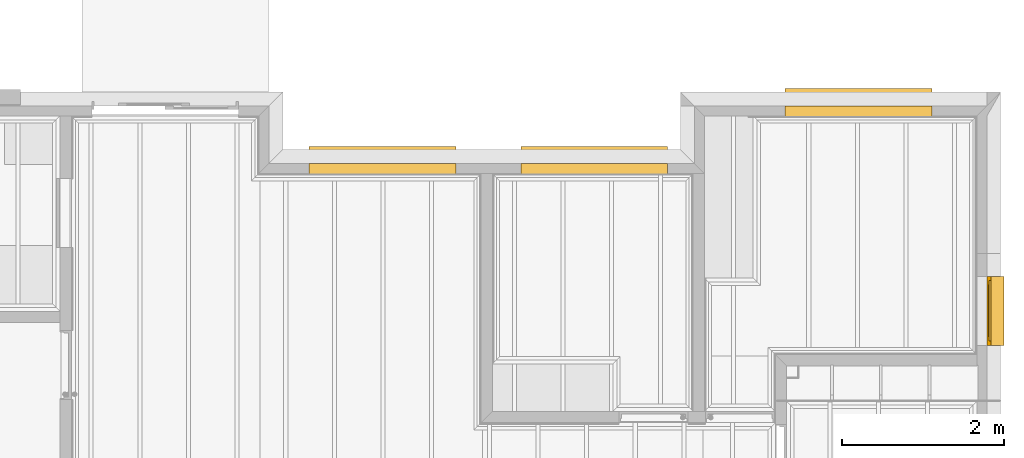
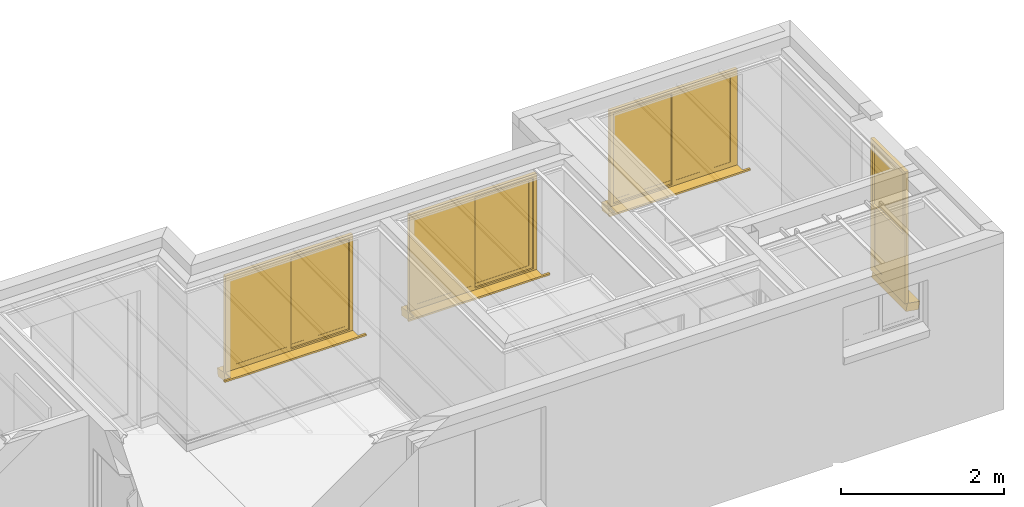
# One storey, part 9 of 15: 4 windows.
"""IFC2X3 building model written with IfcOpenShell, lengths in millimetres."""

from ifc_helpers import new_model, entity, si_unit, converted_unit, money_unit, direction, frame, origin_with_axes, place, context, subcontext, project, spatial, faceted_brep, source, transform, mapped, material, material_list, type_object, element, save


model = new_model("IFC2X3")

# Units and contexts
model_context = context("Model", 3, precision=1e-05, world=origin_with_axes(), true_north=direction((0.0, 1.0)))
body_context = subcontext(model_context, "Body", "Model", "MODEL_VIEW")
ifc_project = project(units=[si_unit("LENGTHUNIT", "METRE", prefix="MILLI"), si_unit("AREAUNIT", "SQUARE_METRE"), si_unit("VOLUMEUNIT", "CUBIC_METRE"), converted_unit("PLANEANGLEUNIT", "DEGREE", entity("IfcPlaneAngleMeasure", 0.0174532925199), si_unit("PLANEANGLEUNIT", "RADIAN"), dimensions=[0, 0, 0, 0, 0, 0, 0]), si_unit("SOLIDANGLEUNIT", "STERADIAN"), money_unit("AUD"), si_unit("TIMEUNIT", "SECOND"), si_unit("MASSUNIT", "GRAM"), si_unit("THERMODYNAMICTEMPERATUREUNIT", "DEGREE_CELSIUS"), si_unit("LUMINOUSINTENSITYUNIT", "LUMEN")], contexts=[model_context])

# Site, building, storey
site_placement = place(None, origin_with_axes())
site = spatial("IfcSite", under=ifc_project, at=site_placement, Name="Lot 1. East Hills", CompositionType="ELEMENT")
building_placement = place(site_placement, origin_with_axes())
building = spatial("IfcBuilding", under=site, at=building_placement, Name="Proposed Units 7 & 8", CompositionType="ELEMENT")
storey_placement = place(building_placement, frame((0.0, 0.0, 3202.0), z_axis=(0.0, 0.0, 1.0), x_axis=(1.0, 0.0, 0.0)))
storey = spatial("IfcBuildingStorey", under=building, at=storey_placement, Name="Ground", CompositionType="ELEMENT", Elevation=3202.0)

# Windows
ifc_material_1 = material(Name="Empty Fill")
ifc_material_2 = material(Name="air space")
ifc_material_list = material_list([ifc_material_1, ifc_material_2, ifc_material_1, ifc_material_1, ifc_material_1, ifc_material_1, ifc_material_1, ifc_material_1, ifc_material_1, ifc_material_1])
window_style_1 = type_object("IfcWindowStyle", Name="W Single Hung 1 11", ConstructionType="NOTDEFINED", OperationType="SINGLE_PANEL", ParameterTakesPrecedence=False, Sizeable=False)
shared_shape_1 = source(origin_with_axes(), body_context, "Body", "Brep", [
    faceted_brep([(425.0, -16.6666666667, 0.0), (425.0, 160.83778132, -31.2988233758), (-425.0, 160.83778132, -31.2988233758), (-425.0, -16.6666666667, 0.0), (425.0, -37.5044479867, -118.176930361), (425.0, 140.0, -149.475753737), (-425.0, 140.0, -149.475753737), (-425.0, -37.5044479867, -118.176930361)], [[[0, 1, 2, 3]], [[0, 4, 5, 1]], [[1, 5, 6, 2]], [[3, 2, 6, 7]], [[4, 0, 3, 7]], [[5, 4, 7, 6]]]),
    faceted_brep([(375.0, 0.0, 50.0), (375.0, -50.0, 50.0), (375.0, -50.0, 1932.0), (375.0, 0.0, 1932.0), (425.0, 0.0, 50.0), (425.0, -50.0, 50.0), (425.0, -50.0, 1932.0), (425.0, 0.0, 1932.0)], [[[0, 1, 2, 3]], [[4, 5, 1, 0]], [[1, 5, 6, 2]], [[3, 2, 6, 7]], [[0, 3, 7, 4]], [[7, 6, 5, 4]]]),
    faceted_brep([(-425.0, 0.0, 50.0), (-425.0, -50.0, 50.0), (-425.0, -50.0, 1932.0), (-425.0, 0.0, 1932.0), (-375.0, 0.0, 50.0), (-375.0, -50.0, 50.0), (-375.0, -50.0, 1932.0), (-375.0, 0.0, 1932.0)], [[[0, 1, 2, 3]], [[4, 5, 1, 0]], [[1, 5, 6, 2]], [[3, 2, 6, 7]], [[0, 3, 7, 4]], [[7, 6, 5, 4]]]),
    faceted_brep([(425.0, 0.0, 0.0), (425.0, -50.0, 0.0), (-425.0, -50.0, 0.0), (-425.0, 0.0, 0.0), (425.0, 0.0, 50.0), (425.0, -50.0, 50.0), (375.0, -50.0, 50.0), (-375.0, -50.0, 50.0), (-425.0, -50.0, 50.0), (-425.0, 0.0, 50.0), (-375.0, 0.0, 50.0), (375.0, 0.0, 50.0)], [[[0, 1, 2, 3]], [[4, 5, 1, 0]], [[1, 5, 6, 7, 8, 2]], [[3, 2, 8, 9]], [[0, 3, 9, 10, 11, 4]], [[11, 6, 5, 4]], [[10, 7, 6, 11]], [[9, 8, 7, 10]]]),
    faceted_brep([(425.0, 0.0, 1932.0), (425.0, -50.0, 1932.0), (375.0, -50.0, 1932.0), (375.0, 0.0, 1932.0), (425.0, 0.0, 1982.0), (425.0, -50.0, 1982.0), (-425.0, -50.0, 1982.0), (-425.0, -50.0, 1932.0), (-375.0, -50.0, 1932.0), (-375.0, 0.0, 1932.0), (-425.0, 0.0, 1932.0), (-425.0, 0.0, 1982.0)], [[[0, 1, 2, 3]], [[4, 5, 1, 0]], [[1, 5, 6, 7, 8, 2]], [[3, 2, 8, 9]], [[0, 3, 9, 10, 11, 4]], [[11, 6, 5, 4]], [[10, 7, 6, 11]], [[9, 8, 7, 10]]]),
    faceted_brep([(325.0, -25.0, 100.0), (325.0, -50.0, 100.0), (325.0, -50.0, 966.0), (325.0, -25.0, 966.0), (375.0, -25.0, 100.0), (375.0, -50.0, 100.0), (375.0, -50.0, 966.0), (375.0, -25.0, 966.0)], [[[0, 1, 2, 3]], [[4, 5, 1, 0]], [[1, 5, 6, 2]], [[3, 2, 6, 7]], [[0, 3, 7, 4]], [[7, 6, 5, 4]]]),
    faceted_brep([(-375.0, -25.0, 100.0), (-375.0, -50.0, 100.0), (-375.0, -50.0, 966.0), (-375.0, -25.0, 966.0), (-325.0, -25.0, 100.0), (-325.0, -50.0, 100.0), (-325.0, -50.0, 966.0), (-325.0, -25.0, 966.0)], [[[0, 1, 2, 3]], [[4, 5, 1, 0]], [[1, 5, 6, 2]], [[3, 2, 6, 7]], [[0, 3, 7, 4]], [[7, 6, 5, 4]]]),
    faceted_brep([(-375.0, -25.0, 50.0), (-375.0, -50.0, 50.0), (-375.0, -50.0, 100.0), (-375.0, -25.0, 100.0), (375.0, -25.0, 50.0), (375.0, -50.0, 50.0), (375.0, -50.0, 100.0), (325.0, -50.0, 100.0), (-325.0, -50.0, 100.0), (-325.0, -25.0, 100.0), (325.0, -25.0, 100.0), (375.0, -25.0, 100.0)], [[[0, 1, 2, 3]], [[4, 5, 1, 0]], [[1, 5, 6, 7, 8, 2]], [[3, 2, 8, 9]], [[0, 3, 9, 10, 11, 4]], [[11, 6, 5, 4]], [[10, 7, 6, 11]], [[9, 8, 7, 10]]]),
    faceted_brep([(375.0, -25.0, 1016.0), (375.0, -50.0, 1016.0), (375.0, -50.0, 966.0), (375.0, -25.0, 966.0), (-375.0, -25.0, 1016.0), (-375.0, -50.0, 1016.0), (-375.0, -50.0, 966.0), (-325.0, -50.0, 966.0), (325.0, -50.0, 966.0), (325.0, -25.0, 966.0), (-325.0, -25.0, 966.0), (-375.0, -25.0, 966.0)], [[[0, 1, 2, 3]], [[4, 5, 1, 0]], [[1, 5, 6, 7, 8, 2]], [[3, 2, 8, 9]], [[0, 3, 9, 10, 11, 4]], [[11, 6, 5, 4]], [[10, 7, 6, 11]], [[9, 8, 7, 10]]]),
    faceted_brep([(325.0, -27.5, 100.0), (325.0, -47.5, 100.0), (-325.0, -47.5, 100.0), (-325.0, -27.5, 100.0), (325.0, -27.5, 966.0), (325.0, -47.5, 966.0), (-325.0, -47.5, 966.0), (-325.0, -27.5, 966.0)], [[[0, 1, 2, 3]], [[4, 5, 1, 0]], [[1, 5, 6, 2]], [[3, 2, 6, 7]], [[0, 3, 7, 4]], [[7, 6, 5, 4]]]),
    faceted_brep([(325.0, -2.5, 1016.0), (325.0, -22.5, 1016.0), (-325.0, -22.5, 1016.0), (-325.0, -2.5, 1016.0), (325.0, -2.5, 1882.0), (325.0, -22.5, 1882.0), (-325.0, -22.5, 1882.0), (-325.0, -2.5, 1882.0)], [[[0, 1, 2, 3]], [[4, 5, 1, 0]], [[1, 5, 6, 2]], [[3, 2, 6, 7]], [[0, 3, 7, 4]], [[7, 6, 5, 4]]]),
    faceted_brep([(325.0, 0.0, 1016.0), (325.0, -25.0, 1016.0), (325.0, -25.0, 1882.0), (325.0, 0.0, 1882.0), (375.0, 0.0, 1016.0), (375.0, -25.0, 1016.0), (375.0, -25.0, 1882.0), (375.0, 0.0, 1882.0)], [[[0, 1, 2, 3]], [[4, 5, 1, 0]], [[1, 5, 6, 2]], [[3, 2, 6, 7]], [[0, 3, 7, 4]], [[7, 6, 5, 4]]]),
    faceted_brep([(-375.0, 0.0, 1016.0), (-375.0, -25.0, 1016.0), (-375.0, -25.0, 1882.0), (-375.0, 0.0, 1882.0), (-325.0, 0.0, 1016.0), (-325.0, -25.0, 1016.0), (-325.0, -25.0, 1882.0), (-325.0, 0.0, 1882.0)], [[[0, 1, 2, 3]], [[4, 5, 1, 0]], [[1, 5, 6, 2]], [[3, 2, 6, 7]], [[0, 3, 7, 4]], [[7, 6, 5, 4]]]),
    faceted_brep([(375.0, 0.0, 966.0), (375.0, -25.0, 966.0), (375.0, -25.0, 921.0), (375.0, 0.0, 921.0), (375.0, 0.0, 1016.0), (375.0, -25.0, 1016.0), (325.0, -25.0, 1016.0), (-325.0, -25.0, 1016.0), (-375.0, -25.0, 1016.0), (-375.0, -25.0, 966.0), (-375.0, -25.0, 921.0), (-358.333333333, -25.0, 921.0), (-358.333333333, -25.0, 929.333333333), (-333.333333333, -25.0, 949.333333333), (-333.333333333, -25.0, 966.0), (333.333333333, -25.0, 966.0), (333.333333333, -25.0, 949.333333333), (358.333333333, -25.0, 929.333333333), (358.333333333, -25.0, 921.0), (358.333333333, 0.0, 921.0), (358.333333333, 0.0, 929.333333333), (333.333333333, 0.0, 949.333333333), (333.333333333, 0.0, 966.0), (-333.333333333, 0.0, 966.0), (-333.333333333, 0.0, 949.333333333), (-358.333333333, 0.0, 929.333333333), (-358.333333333, 0.0, 921.0), (-375.0, 0.0, 921.0), (-375.0, 0.0, 966.0), (-375.0, 0.0, 1016.0), (-325.0, 0.0, 1016.0), (325.0, 0.0, 1016.0)], [[[0, 1, 2, 3]], [[4, 5, 1, 0]], [[1, 5, 6, 7, 8, 9, 10, 11, 12, 13, 14, 15, 16, 17, 18, 2]], [[3, 2, 18, 19]], [[0, 3, 19, 20, 21, 22, 23, 24, 25, 26, 27, 28, 29, 30, 31, 4]], [[31, 6, 5, 4]], [[30, 7, 6, 31]], [[29, 8, 7, 30]], [[28, 9, 8, 29]], [[27, 10, 9, 28]], [[26, 11, 10, 27]], [[25, 12, 11, 26]], [[24, 13, 12, 25]], [[23, 14, 13, 24]], [[22, 15, 14, 23]], [[21, 16, 15, 22]], [[20, 17, 16, 21]], [[19, 18, 17, 20]]]),
    faceted_brep([(375.0, 0.0, 1932.0), (375.0, -25.0, 1932.0), (375.0, -25.0, 1882.0), (375.0, 0.0, 1882.0), (-375.0, 0.0, 1932.0), (-375.0, -25.0, 1932.0), (-375.0, -25.0, 1882.0), (-325.0, -25.0, 1882.0), (325.0, -25.0, 1882.0), (325.0, 0.0, 1882.0), (-325.0, 0.0, 1882.0), (-375.0, 0.0, 1882.0)], [[[0, 1, 2, 3]], [[4, 5, 1, 0]], [[1, 5, 6, 7, 8, 2]], [[3, 2, 8, 9]], [[0, 3, 9, 10, 11, 4]], [[11, 6, 5, 4]], [[10, 7, 6, 11]], [[9, 8, 7, 10]]]),
])
window_1_placement = place(storey_placement, frame((15830.0, 2988.32110375, 343.0), z_axis=(0.0, 0.0, 1.0), x_axis=(0.0, -1.0, 0.0)))
element("IfcWindow", 1, at=window_1_placement, inside=storey, type_object=window_style_1, material=ifc_material_list, Name="W006 W Single Hung 1 11 0.85 x 1.982 Window", OverallHeight=1982.0, OverallWidth=850.0, context=body_context, shape_type="MappedRepresentation", body=[
    mapped(shared_shape_1, transform((425.0, -120.0, 0.0))),
])
window_style_2 = type_object("IfcWindowStyle", Name="W2 Horizontal Slide 11", ConstructionType="NOTDEFINED", OperationType="DOUBLE_PANEL_VERTICAL", ParameterTakesPrecedence=False, Sizeable=False)
shared_shape_2 = source(origin_with_axes(), body_context, "Body", "Brep", [
    faceted_brep([(905.0, -16.6666666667, 0.0), (905.0, 160.83778132, -31.2988233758), (-905.0, 160.83778132, -31.2988233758), (-905.0, -16.6666666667, 0.0), (905.0, -37.5044479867, -118.176930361), (905.0, 140.0, -149.475753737), (-905.0, 140.0, -149.475753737), (-905.0, -37.5044479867, -118.176930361)], [[[0, 1, 2, 3]], [[0, 4, 5, 1]], [[1, 5, 6, 2]], [[3, 2, 6, 7]], [[4, 0, 3, 7]], [[5, 4, 7, 6]]]),
    faceted_brep([(-905.0, -50.0, 0.0), (-905.0, -174.999998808, 0.0), (-905.0, -174.999998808, 25.0), (-905.0, -50.0, 25.0), (905.0, -50.0, 0.0), (905.0, -174.999998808, 0.0), (1005.0, -174.999998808, 0.0), (1005.0, -204.999998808, 0.0), (-1005.0, -204.999998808, 0.0), (-1005.0, -174.999998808, 0.0), (-1005.0, -174.999998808, 25.0), (-1005.0, -204.999998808, 25.0), (1005.0, -204.999998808, 25.0), (1005.0, -174.999998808, 25.0), (905.0, -174.999998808, 25.0), (905.0, -50.0, 25.0)], [[[0, 1, 2, 3]], [[0, 4, 5, 6, 7, 8, 9, 1]], [[1, 9, 10, 2]], [[3, 2, 10, 11, 12, 13, 14, 15]], [[4, 0, 3, 15]], [[5, 4, 15, 14]], [[6, 5, 14, 13]], [[7, 6, 13, 12]], [[8, 7, 12, 11]], [[9, 8, 11, 10]]]),
    faceted_brep([(855.0, 0.0, 50.0), (855.0, -50.0, 50.0), (855.0, -50.0, 1417.0), (855.0, 0.0, 1417.0), (905.0, 0.0, 50.0), (905.0, -50.0, 50.0), (905.0, -50.0, 1417.0), (905.0, 0.0, 1417.0)], [[[0, 1, 2, 3]], [[4, 5, 1, 0]], [[1, 5, 6, 2]], [[3, 2, 6, 7]], [[0, 3, 7, 4]], [[7, 6, 5, 4]]]),
    faceted_brep([(-905.0, 0.0, 50.0), (-905.0, -50.0, 50.0), (-905.0, -50.0, 1417.0), (-905.0, 0.0, 1417.0), (-855.0, 0.0, 50.0), (-855.0, -50.0, 50.0), (-855.0, -50.0, 1417.0), (-855.0, 0.0, 1417.0)], [[[0, 1, 2, 3]], [[4, 5, 1, 0]], [[1, 5, 6, 2]], [[3, 2, 6, 7]], [[0, 3, 7, 4]], [[7, 6, 5, 4]]]),
    faceted_brep([(905.0, 0.0, 0.0), (905.0, -50.0, 0.0), (-905.0, -50.0, 0.0), (-905.0, 0.0, 0.0), (905.0, 0.0, 50.0), (905.0, -50.0, 50.0), (855.0, -50.0, 50.0), (-855.0, -50.0, 50.0), (-905.0, -50.0, 50.0), (-905.0, 0.0, 50.0), (-855.0, 0.0, 50.0), (855.0, 0.0, 50.0)], [[[0, 1, 2, 3]], [[4, 5, 1, 0]], [[1, 5, 6, 7, 8, 2]], [[3, 2, 8, 9]], [[0, 3, 9, 10, 11, 4]], [[11, 6, 5, 4]], [[10, 7, 6, 11]], [[9, 8, 7, 10]]]),
    faceted_brep([(905.0, 0.0, 1417.0), (905.0, -50.0, 1417.0), (855.0, -50.0, 1417.0), (855.0, 0.0, 1417.0), (905.0, 0.0, 1467.0), (905.0, -50.0, 1467.0), (-905.0, -50.0, 1467.0), (-905.0, -50.0, 1417.0), (-855.0, -50.0, 1417.0), (-855.0, 0.0, 1417.0), (-905.0, 0.0, 1417.0), (-905.0, 0.0, 1467.0)], [[[0, 1, 2, 3]], [[4, 5, 1, 0]], [[1, 5, 6, 7, 8, 2]], [[3, 2, 8, 9]], [[0, 3, 9, 10, 11, 4]], [[11, 6, 5, 4]], [[10, 7, 6, 11]], [[9, 8, 7, 10]]]),
    faceted_brep([(805.0, 0.0, 100.0), (805.0, -25.0, 100.0), (805.0, -25.0, 1367.0), (805.0, 0.0, 1367.0), (855.0, 0.0, 100.0), (855.0, -25.0, 100.0), (855.0, -25.0, 1367.0), (855.0, 0.0, 1367.0)], [[[0, 1, 2, 3]], [[4, 5, 1, 0]], [[1, 5, 6, 2]], [[3, 2, 6, 7]], [[0, 3, 7, 4]], [[7, 6, 5, 4]]]),
    faceted_brep([(-25.0, 0.0, 100.0), (-25.0, -25.0, 100.0), (-25.0, -25.0, 1367.0), (-25.0, 0.0, 1367.0), (25.0, 0.0, 100.0), (25.0, -25.0, 100.0), (25.0, -25.0, 1367.0), (25.0, 0.0, 1367.0)], [[[0, 1, 2, 3]], [[4, 5, 1, 0]], [[1, 5, 6, 2]], [[3, 2, 6, 7]], [[0, 3, 7, 4]], [[7, 6, 5, 4]]]),
    faceted_brep([(-25.0, 0.0, 50.0), (-25.0, -25.0, 50.0), (-25.0, -25.0, 100.0), (-25.0, 0.0, 100.0), (855.0, 0.0, 50.0), (855.0, -25.0, 50.0), (855.0, -25.0, 100.0), (805.0, -25.0, 100.0), (25.0, -25.0, 100.0), (25.0, 0.0, 100.0), (805.0, 0.0, 100.0), (855.0, 0.0, 100.0)], [[[0, 1, 2, 3]], [[4, 5, 1, 0]], [[1, 5, 6, 7, 8, 2]], [[3, 2, 8, 9]], [[0, 3, 9, 10, 11, 4]], [[11, 6, 5, 4]], [[10, 7, 6, 11]], [[9, 8, 7, 10]]]),
    faceted_brep([(855.0, 0.0, 1417.0), (855.0, -25.0, 1417.0), (855.0, -25.0, 1367.0), (855.0, 0.0, 1367.0), (-25.0, 0.0, 1417.0), (-25.0, -25.0, 1417.0), (-25.0, -25.0, 1367.0), (25.0, -25.0, 1367.0), (805.0, -25.0, 1367.0), (805.0, 0.0, 1367.0), (25.0, 0.0, 1367.0), (-25.0, 0.0, 1367.0)], [[[0, 1, 2, 3]], [[4, 5, 1, 0]], [[1, 5, 6, 7, 8, 2]], [[3, 2, 8, 9]], [[0, 3, 9, 10, 11, 4]], [[11, 6, 5, 4]], [[10, 7, 6, 11]], [[9, 8, 7, 10]]]),
    faceted_brep([(805.0, -2.5, 100.0), (805.0, -22.5, 100.0), (25.0, -22.5, 100.0), (25.0, -2.5, 100.0), (805.0, -2.5, 1367.0), (805.0, -22.5, 1367.0), (25.0, -22.5, 1367.0), (25.0, -2.5, 1367.0)], [[[0, 1, 2, 3]], [[4, 5, 1, 0]], [[1, 5, 6, 2]], [[3, 2, 6, 7]], [[0, 3, 7, 4]], [[7, 6, 5, 4]]]),
    faceted_brep([(-25.0, -25.0, 100.0), (-25.0, -50.0, 100.0), (-25.0, -50.0, 1367.0), (-25.0, -25.0, 1367.0), (25.0, -25.0, 100.0), (25.0, -50.0, 100.0), (25.0, -50.0, 1367.0), (25.0, -25.0, 1367.0)], [[[0, 1, 2, 3]], [[4, 5, 1, 0]], [[1, 5, 6, 2]], [[3, 2, 6, 7]], [[0, 3, 7, 4]], [[7, 6, 5, 4]]]),
    faceted_brep([(-855.0, -25.0, 100.0), (-855.0, -50.0, 100.0), (-855.0, -50.0, 1367.0), (-855.0, -25.0, 1367.0), (-805.0, -25.0, 100.0), (-805.0, -50.0, 100.0), (-805.0, -50.0, 1367.0), (-805.0, -25.0, 1367.0)], [[[0, 1, 2, 3]], [[4, 5, 1, 0]], [[1, 5, 6, 2]], [[3, 2, 6, 7]], [[0, 3, 7, 4]], [[7, 6, 5, 4]]]),
    faceted_brep([(-855.0, -25.0, 50.0), (-855.0, -50.0, 50.0), (-855.0, -50.0, 100.0), (-855.0, -25.0, 100.0), (25.0, -25.0, 50.0), (25.0, -50.0, 50.0), (25.0, -50.0, 100.0), (-25.0, -50.0, 100.0), (-805.0, -50.0, 100.0), (-805.0, -25.0, 100.0), (-25.0, -25.0, 100.0), (25.0, -25.0, 100.0)], [[[0, 1, 2, 3]], [[4, 5, 1, 0]], [[1, 5, 6, 7, 8, 2]], [[3, 2, 8, 9]], [[0, 3, 9, 10, 11, 4]], [[11, 6, 5, 4]], [[10, 7, 6, 11]], [[9, 8, 7, 10]]]),
    faceted_brep([(25.0, -25.0, 1417.0), (25.0, -50.0, 1417.0), (25.0, -50.0, 1367.0), (25.0, -25.0, 1367.0), (-855.0, -25.0, 1417.0), (-855.0, -50.0, 1417.0), (-855.0, -50.0, 1367.0), (-805.0, -50.0, 1367.0), (-25.0, -50.0, 1367.0), (-25.0, -25.0, 1367.0), (-805.0, -25.0, 1367.0), (-855.0, -25.0, 1367.0)], [[[0, 1, 2, 3]], [[4, 5, 1, 0]], [[1, 5, 6, 7, 8, 2]], [[3, 2, 8, 9]], [[0, 3, 9, 10, 11, 4]], [[11, 6, 5, 4]], [[10, 7, 6, 11]], [[9, 8, 7, 10]]]),
    faceted_brep([(-25.0, -27.5, 100.0), (-25.0, -47.5, 100.0), (-805.0, -47.5, 100.0), (-805.0, -27.5, 100.0), (-25.0, -27.5, 1367.0), (-25.0, -47.5, 1367.0), (-805.0, -47.5, 1367.0), (-805.0, -27.5, 1367.0)], [[[0, 1, 2, 3]], [[4, 5, 1, 0]], [[1, 5, 6, 2]], [[3, 2, 6, 7]], [[0, 3, 7, 4]], [[7, 6, 5, 4]]]),
])
window_2_placement = place(storey_placement, frame((7300.0, 4553.0, 857.0), z_axis=(0.0, 0.0, 1.0), x_axis=(1.0, 0.0, 0.0)))
element("IfcWindow", 2, at=window_2_placement, inside=storey, type_object=window_style_2, material=ifc_material_list, Name="W003 W2 Horizontal Slide 11 1.81 x 1.467 Window", OverallHeight=1467.0, OverallWidth=1810.0, context=body_context, shape_type="MappedRepresentation", body=[
    mapped(shared_shape_2, transform((905.0, -120.0, 0.0))),
])
shared_shape_3 = source(origin_with_axes(), body_context, "Body", "Brep", [
    faceted_brep([(905.0, -16.6666666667, 0.0), (905.0, 160.83778132, -31.2988233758), (-905.0, 160.83778132, -31.2988233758), (-905.0, -16.6666666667, 0.0), (905.0, -37.5044479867, -118.176930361), (905.0, 140.0, -149.475753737), (-905.0, 140.0, -149.475753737), (-905.0, -37.5044479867, -118.176930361)], [[[0, 1, 2, 3]], [[0, 4, 5, 1]], [[1, 5, 6, 2]], [[3, 2, 6, 7]], [[4, 0, 3, 7]], [[5, 4, 7, 6]]]),
    faceted_brep([(-905.0, -50.0, 0.0), (-905.0, -174.999998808, 0.0), (-905.0, -174.999998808, 25.0), (-905.0, -50.0, 25.0), (905.0, -50.0, 0.0), (905.0, -174.999998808, 0.0), (1005.0, -174.999998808, 0.0), (1005.0, -204.999998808, 0.0), (-1005.0, -204.999998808, 0.0), (-1005.0, -174.999998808, 0.0), (-1005.0, -174.999998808, 25.0), (-1005.0, -204.999998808, 25.0), (1005.0, -204.999998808, 25.0), (1005.0, -174.999998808, 25.0), (905.0, -174.999998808, 25.0), (905.0, -50.0, 25.0)], [[[0, 1, 2, 3]], [[0, 4, 5, 6, 7, 8, 9, 1]], [[1, 9, 10, 2]], [[3, 2, 10, 11, 12, 13, 14, 15]], [[4, 0, 3, 15]], [[5, 4, 15, 14]], [[6, 5, 14, 13]], [[7, 6, 13, 12]], [[8, 7, 12, 11]], [[9, 8, 11, 10]]]),
    faceted_brep([(855.0, 0.0, 50.0), (855.0, -50.0, 50.0), (855.0, -50.0, 1417.0), (855.0, 0.0, 1417.0), (905.0, 0.0, 50.0), (905.0, -50.0, 50.0), (905.0, -50.0, 1417.0), (905.0, 0.0, 1417.0)], [[[0, 1, 2, 3]], [[4, 5, 1, 0]], [[1, 5, 6, 2]], [[3, 2, 6, 7]], [[0, 3, 7, 4]], [[7, 6, 5, 4]]]),
    faceted_brep([(-905.0, 0.0, 50.0), (-905.0, -50.0, 50.0), (-905.0, -50.0, 1417.0), (-905.0, 0.0, 1417.0), (-855.0, 0.0, 50.0), (-855.0, -50.0, 50.0), (-855.0, -50.0, 1417.0), (-855.0, 0.0, 1417.0)], [[[0, 1, 2, 3]], [[4, 5, 1, 0]], [[1, 5, 6, 2]], [[3, 2, 6, 7]], [[0, 3, 7, 4]], [[7, 6, 5, 4]]]),
    faceted_brep([(905.0, 0.0, 0.0), (905.0, -50.0, 0.0), (-905.0, -50.0, 0.0), (-905.0, 0.0, 0.0), (905.0, 0.0, 50.0), (905.0, -50.0, 50.0), (855.0, -50.0, 50.0), (-855.0, -50.0, 50.0), (-905.0, -50.0, 50.0), (-905.0, 0.0, 50.0), (-855.0, 0.0, 50.0), (855.0, 0.0, 50.0)], [[[0, 1, 2, 3]], [[4, 5, 1, 0]], [[1, 5, 6, 7, 8, 2]], [[3, 2, 8, 9]], [[0, 3, 9, 10, 11, 4]], [[11, 6, 5, 4]], [[10, 7, 6, 11]], [[9, 8, 7, 10]]]),
    faceted_brep([(905.0, 0.0, 1417.0), (905.0, -50.0, 1417.0), (855.0, -50.0, 1417.0), (855.0, 0.0, 1417.0), (905.0, 0.0, 1467.0), (905.0, -50.0, 1467.0), (-905.0, -50.0, 1467.0), (-905.0, -50.0, 1417.0), (-855.0, -50.0, 1417.0), (-855.0, 0.0, 1417.0), (-905.0, 0.0, 1417.0), (-905.0, 0.0, 1467.0)], [[[0, 1, 2, 3]], [[4, 5, 1, 0]], [[1, 5, 6, 7, 8, 2]], [[3, 2, 8, 9]], [[0, 3, 9, 10, 11, 4]], [[11, 6, 5, 4]], [[10, 7, 6, 11]], [[9, 8, 7, 10]]]),
    faceted_brep([(805.0, 0.0, 100.0), (805.0, -25.0, 100.0), (805.0, -25.0, 1367.0), (805.0, 0.0, 1367.0), (855.0, 0.0, 100.0), (855.0, -25.0, 100.0), (855.0, -25.0, 1367.0), (855.0, 0.0, 1367.0)], [[[0, 1, 2, 3]], [[4, 5, 1, 0]], [[1, 5, 6, 2]], [[3, 2, 6, 7]], [[0, 3, 7, 4]], [[7, 6, 5, 4]]]),
    faceted_brep([(-25.0, 0.0, 100.0), (-25.0, -25.0, 100.0), (-25.0, -25.0, 1367.0), (-25.0, 0.0, 1367.0), (25.0, 0.0, 100.0), (25.0, -25.0, 100.0), (25.0, -25.0, 1367.0), (25.0, 0.0, 1367.0)], [[[0, 1, 2, 3]], [[4, 5, 1, 0]], [[1, 5, 6, 2]], [[3, 2, 6, 7]], [[0, 3, 7, 4]], [[7, 6, 5, 4]]]),
    faceted_brep([(-25.0, 0.0, 50.0), (-25.0, -25.0, 50.0), (-25.0, -25.0, 100.0), (-25.0, 0.0, 100.0), (855.0, 0.0, 50.0), (855.0, -25.0, 50.0), (855.0, -25.0, 100.0), (805.0, -25.0, 100.0), (25.0, -25.0, 100.0), (25.0, 0.0, 100.0), (805.0, 0.0, 100.0), (855.0, 0.0, 100.0)], [[[0, 1, 2, 3]], [[4, 5, 1, 0]], [[1, 5, 6, 7, 8, 2]], [[3, 2, 8, 9]], [[0, 3, 9, 10, 11, 4]], [[11, 6, 5, 4]], [[10, 7, 6, 11]], [[9, 8, 7, 10]]]),
    faceted_brep([(855.0, 0.0, 1417.0), (855.0, -25.0, 1417.0), (855.0, -25.0, 1367.0), (855.0, 0.0, 1367.0), (-25.0, 0.0, 1417.0), (-25.0, -25.0, 1417.0), (-25.0, -25.0, 1367.0), (25.0, -25.0, 1367.0), (805.0, -25.0, 1367.0), (805.0, 0.0, 1367.0), (25.0, 0.0, 1367.0), (-25.0, 0.0, 1367.0)], [[[0, 1, 2, 3]], [[4, 5, 1, 0]], [[1, 5, 6, 7, 8, 2]], [[3, 2, 8, 9]], [[0, 3, 9, 10, 11, 4]], [[11, 6, 5, 4]], [[10, 7, 6, 11]], [[9, 8, 7, 10]]]),
    faceted_brep([(805.0, -2.5, 100.0), (805.0, -22.5, 100.0), (25.0, -22.5, 100.0), (25.0, -2.5, 100.0), (805.0, -2.5, 1367.0), (805.0, -22.5, 1367.0), (25.0, -22.5, 1367.0), (25.0, -2.5, 1367.0)], [[[0, 1, 2, 3]], [[4, 5, 1, 0]], [[1, 5, 6, 2]], [[3, 2, 6, 7]], [[0, 3, 7, 4]], [[7, 6, 5, 4]]]),
    faceted_brep([(-25.0, -25.0, 100.0), (-25.0, -50.0, 100.0), (-25.0, -50.0, 1367.0), (-25.0, -25.0, 1367.0), (25.0, -25.0, 100.0), (25.0, -50.0, 100.0), (25.0, -50.0, 1367.0), (25.0, -25.0, 1367.0)], [[[0, 1, 2, 3]], [[4, 5, 1, 0]], [[1, 5, 6, 2]], [[3, 2, 6, 7]], [[0, 3, 7, 4]], [[7, 6, 5, 4]]]),
    faceted_brep([(-855.0, -25.0, 100.0), (-855.0, -50.0, 100.0), (-855.0, -50.0, 1367.0), (-855.0, -25.0, 1367.0), (-805.0, -25.0, 100.0), (-805.0, -50.0, 100.0), (-805.0, -50.0, 1367.0), (-805.0, -25.0, 1367.0)], [[[0, 1, 2, 3]], [[4, 5, 1, 0]], [[1, 5, 6, 2]], [[3, 2, 6, 7]], [[0, 3, 7, 4]], [[7, 6, 5, 4]]]),
    faceted_brep([(-855.0, -25.0, 50.0), (-855.0, -50.0, 50.0), (-855.0, -50.0, 100.0), (-855.0, -25.0, 100.0), (25.0, -25.0, 50.0), (25.0, -50.0, 50.0), (25.0, -50.0, 100.0), (-25.0, -50.0, 100.0), (-805.0, -50.0, 100.0), (-805.0, -25.0, 100.0), (-25.0, -25.0, 100.0), (25.0, -25.0, 100.0)], [[[0, 1, 2, 3]], [[4, 5, 1, 0]], [[1, 5, 6, 7, 8, 2]], [[3, 2, 8, 9]], [[0, 3, 9, 10, 11, 4]], [[11, 6, 5, 4]], [[10, 7, 6, 11]], [[9, 8, 7, 10]]]),
    faceted_brep([(25.0, -25.0, 1417.0), (25.0, -50.0, 1417.0), (25.0, -50.0, 1367.0), (25.0, -25.0, 1367.0), (-855.0, -25.0, 1417.0), (-855.0, -50.0, 1417.0), (-855.0, -50.0, 1367.0), (-805.0, -50.0, 1367.0), (-25.0, -50.0, 1367.0), (-25.0, -25.0, 1367.0), (-805.0, -25.0, 1367.0), (-855.0, -25.0, 1367.0)], [[[0, 1, 2, 3]], [[4, 5, 1, 0]], [[1, 5, 6, 7, 8, 2]], [[3, 2, 8, 9]], [[0, 3, 9, 10, 11, 4]], [[11, 6, 5, 4]], [[10, 7, 6, 11]], [[9, 8, 7, 10]]]),
    faceted_brep([(-25.0, -27.5, 100.0), (-25.0, -47.5, 100.0), (-805.0, -47.5, 100.0), (-805.0, -27.5, 100.0), (-25.0, -27.5, 1367.0), (-25.0, -47.5, 1367.0), (-805.0, -47.5, 1367.0), (-805.0, -27.5, 1367.0)], [[[0, 1, 2, 3]], [[4, 5, 1, 0]], [[1, 5, 6, 2]], [[3, 2, 6, 7]], [[0, 3, 7, 4]], [[7, 6, 5, 4]]]),
])
window_3_placement = place(storey_placement, frame((9912.49999955, 4553.0, 857.0), z_axis=(0.0, 0.0, 1.0), x_axis=(1.0, 0.0, 0.0)))
element("IfcWindow", 3, at=window_3_placement, inside=storey, type_object=window_style_2, material=ifc_material_list, Name="W004 W2 Horizontal Slide 11 1.81 x 1.467 Window", OverallHeight=1467.0, OverallWidth=1810.0, context=body_context, shape_type="MappedRepresentation", body=[
    mapped(shared_shape_3, transform((905.0, -120.0, 0.0))),
])
shared_shape_4 = source(origin_with_axes(), body_context, "Body", "Brep", [
    faceted_brep([(905.0, -16.6666666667, 0.0), (905.0, 165.83778132, -32.1804582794), (-905.0, 165.83778132, -32.1804582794), (-905.0, -16.6666666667, 0.0), (905.0, -37.5044479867, -118.176930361), (905.0, 145.0, -150.357388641), (-905.0, 145.0, -150.357388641), (-905.0, -37.5044479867, -118.176930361)], [[[0, 1, 2, 3]], [[0, 4, 5, 1]], [[1, 5, 6, 2]], [[3, 2, 6, 7]], [[4, 0, 3, 7]], [[5, 4, 7, 6]]]),
    faceted_brep([(-905.0, -50.0, 0.0), (-905.0, -174.999998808, 0.0), (-905.0, -174.999998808, 25.0), (-905.0, -50.0, 25.0), (905.0, -50.0, 0.0), (905.0, -174.999998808, 0.0), (1005.0, -174.999998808, 0.0), (1005.0, -204.999998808, 0.0), (-1005.0, -204.999998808, 0.0), (-1005.0, -174.999998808, 0.0), (-1005.0, -174.999998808, 25.0), (-1005.0, -204.999998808, 25.0), (1005.0, -204.999998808, 25.0), (1005.0, -174.999998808, 25.0), (905.0, -174.999998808, 25.0), (905.0, -50.0, 25.0)], [[[0, 1, 2, 3]], [[0, 4, 5, 6, 7, 8, 9, 1]], [[1, 9, 10, 2]], [[3, 2, 10, 11, 12, 13, 14, 15]], [[4, 0, 3, 15]], [[5, 4, 15, 14]], [[6, 5, 14, 13]], [[7, 6, 13, 12]], [[8, 7, 12, 11]], [[9, 8, 11, 10]]]),
    faceted_brep([(855.0, -50.0, 50.0), (855.0, -50.0, 1417.0), (855.0, 0.0, 1417.0), (855.0, 0.0, 50.0), (905.0, -50.0, 50.0), (905.0, -50.0, 1417.0), (905.0, 0.0, 1417.0), (905.0, 0.0, 50.0)], [[[0, 1, 2, 3]], [[0, 4, 5, 1]], [[1, 5, 6, 2]], [[3, 2, 6, 7]], [[4, 0, 3, 7]], [[5, 4, 7, 6]]]),
    faceted_brep([(-905.0, -50.0, 50.0), (-905.0, -50.0, 1417.0), (-905.0, 0.0, 1417.0), (-905.0, 0.0, 50.0), (-855.0, -50.0, 50.0), (-855.0, -50.0, 1417.0), (-855.0, 0.0, 1417.0), (-855.0, 0.0, 50.0)], [[[0, 1, 2, 3]], [[0, 4, 5, 1]], [[1, 5, 6, 2]], [[3, 2, 6, 7]], [[4, 0, 3, 7]], [[5, 4, 7, 6]]]),
    faceted_brep([(905.0, -50.0, 0.0), (-905.0, -50.0, 0.0), (-905.0, 0.0, 0.0), (905.0, 0.0, 0.0), (905.0, -50.0, 50.0), (855.0, -50.0, 50.0), (-855.0, -50.0, 50.0), (-905.0, -50.0, 50.0), (-905.0, 0.0, 50.0), (-855.0, 0.0, 50.0), (855.0, 0.0, 50.0), (905.0, 0.0, 50.0)], [[[0, 1, 2, 3]], [[0, 4, 5, 6, 7, 1]], [[1, 7, 8, 2]], [[3, 2, 8, 9, 10, 11]], [[4, 0, 3, 11]], [[5, 4, 11, 10]], [[6, 5, 10, 9]], [[7, 6, 9, 8]]]),
    faceted_brep([(905.0, -50.0, 1417.0), (855.0, -50.0, 1417.0), (855.0, 0.0, 1417.0), (905.0, 0.0, 1417.0), (905.0, -50.0, 1467.0), (-905.0, -50.0, 1467.0), (-905.0, -50.0, 1417.0), (-855.0, -50.0, 1417.0), (-855.0, 0.0, 1417.0), (-905.0, 0.0, 1417.0), (-905.0, 0.0, 1467.0), (905.0, 0.0, 1467.0)], [[[0, 1, 2, 3]], [[0, 4, 5, 6, 7, 1]], [[1, 7, 8, 2]], [[3, 2, 8, 9, 10, 11]], [[4, 0, 3, 11]], [[5, 4, 11, 10]], [[6, 5, 10, 9]], [[7, 6, 9, 8]]]),
    faceted_brep([(805.0, -50.0, 100.0), (805.0, -50.0, 1367.0), (805.0, -25.0, 1367.0), (805.0, -25.0, 100.0), (855.0, -50.0, 100.0), (855.0, -50.0, 1367.0), (855.0, -25.0, 1367.0), (855.0, -25.0, 100.0)], [[[0, 1, 2, 3]], [[0, 4, 5, 1]], [[1, 5, 6, 2]], [[3, 2, 6, 7]], [[4, 0, 3, 7]], [[5, 4, 7, 6]]]),
    faceted_brep([(-25.0, -50.0, 100.0), (-25.0, -50.0, 1367.0), (-25.0, -25.0, 1367.0), (-25.0, -25.0, 100.0), (25.0, -50.0, 100.0), (25.0, -50.0, 1367.0), (25.0, -25.0, 1367.0), (25.0, -25.0, 100.0)], [[[0, 1, 2, 3]], [[0, 4, 5, 1]], [[1, 5, 6, 2]], [[3, 2, 6, 7]], [[4, 0, 3, 7]], [[5, 4, 7, 6]]]),
    faceted_brep([(-25.0, -50.0, 50.0), (-25.0, -50.0, 100.0), (-25.0, -25.0, 100.0), (-25.0, -25.0, 50.0), (855.0, -50.0, 50.0), (855.0, -50.0, 100.0), (805.0, -50.0, 100.0), (25.0, -50.0, 100.0), (25.0, -25.0, 100.0), (805.0, -25.0, 100.0), (855.0, -25.0, 100.0), (855.0, -25.0, 50.0)], [[[0, 1, 2, 3]], [[0, 4, 5, 6, 7, 1]], [[1, 7, 8, 2]], [[3, 2, 8, 9, 10, 11]], [[4, 0, 3, 11]], [[5, 4, 11, 10]], [[6, 5, 10, 9]], [[7, 6, 9, 8]]]),
    faceted_brep([(855.0, -50.0, 1417.0), (855.0, -50.0, 1367.0), (855.0, -25.0, 1367.0), (855.0, -25.0, 1417.0), (-25.0, -50.0, 1417.0), (-25.0, -50.0, 1367.0), (25.0, -50.0, 1367.0), (805.0, -50.0, 1367.0), (805.0, -25.0, 1367.0), (25.0, -25.0, 1367.0), (-25.0, -25.0, 1367.0), (-25.0, -25.0, 1417.0)], [[[0, 1, 2, 3]], [[0, 4, 5, 6, 7, 1]], [[1, 7, 8, 2]], [[3, 2, 8, 9, 10, 11]], [[4, 0, 3, 11]], [[5, 4, 11, 10]], [[6, 5, 10, 9]], [[7, 6, 9, 8]]]),
    faceted_brep([(805.0, -47.5, 100.0), (25.0, -47.5, 100.0), (25.0, -27.5, 100.0), (805.0, -27.5, 100.0), (805.0, -47.5, 1367.0), (25.0, -47.5, 1367.0), (25.0, -27.5, 1367.0), (805.0, -27.5, 1367.0)], [[[0, 1, 2, 3]], [[0, 4, 5, 1]], [[1, 5, 6, 2]], [[3, 2, 6, 7]], [[4, 0, 3, 7]], [[5, 4, 7, 6]]]),
    faceted_brep([(-25.0, -25.0, 100.0), (-25.0, -25.0, 1367.0), (-25.0, 0.0, 1367.0), (-25.0, 0.0, 100.0), (25.0, -25.0, 100.0), (25.0, -25.0, 1367.0), (25.0, 0.0, 1367.0), (25.0, 0.0, 100.0)], [[[0, 1, 2, 3]], [[0, 4, 5, 1]], [[1, 5, 6, 2]], [[3, 2, 6, 7]], [[4, 0, 3, 7]], [[5, 4, 7, 6]]]),
    faceted_brep([(-855.0, -25.0, 100.0), (-855.0, -25.0, 1367.0), (-855.0, 0.0, 1367.0), (-855.0, 0.0, 100.0), (-805.0, -25.0, 100.0), (-805.0, -25.0, 1367.0), (-805.0, 0.0, 1367.0), (-805.0, 0.0, 100.0)], [[[0, 1, 2, 3]], [[0, 4, 5, 1]], [[1, 5, 6, 2]], [[3, 2, 6, 7]], [[4, 0, 3, 7]], [[5, 4, 7, 6]]]),
    faceted_brep([(-855.0, -25.0, 50.0), (-855.0, -25.0, 100.0), (-855.0, 0.0, 100.0), (-855.0, 0.0, 50.0), (25.0, -25.0, 50.0), (25.0, -25.0, 100.0), (-25.0, -25.0, 100.0), (-805.0, -25.0, 100.0), (-805.0, 0.0, 100.0), (-25.0, 0.0, 100.0), (25.0, 0.0, 100.0), (25.0, 0.0, 50.0)], [[[0, 1, 2, 3]], [[0, 4, 5, 6, 7, 1]], [[1, 7, 8, 2]], [[3, 2, 8, 9, 10, 11]], [[4, 0, 3, 11]], [[5, 4, 11, 10]], [[6, 5, 10, 9]], [[7, 6, 9, 8]]]),
    faceted_brep([(25.0, -25.0, 1417.0), (25.0, -25.0, 1367.0), (25.0, 0.0, 1367.0), (25.0, 0.0, 1417.0), (-855.0, -25.0, 1417.0), (-855.0, -25.0, 1367.0), (-805.0, -25.0, 1367.0), (-25.0, -25.0, 1367.0), (-25.0, 0.0, 1367.0), (-805.0, 0.0, 1367.0), (-855.0, 0.0, 1367.0), (-855.0, 0.0, 1417.0)], [[[0, 1, 2, 3]], [[0, 4, 5, 6, 7, 1]], [[1, 7, 8, 2]], [[3, 2, 8, 9, 10, 11]], [[4, 0, 3, 11]], [[5, 4, 11, 10]], [[6, 5, 10, 9]], [[7, 6, 9, 8]]]),
    faceted_brep([(-25.0, -22.5, 100.0), (-805.0, -22.5, 100.0), (-805.0, -2.5, 100.0), (-25.0, -2.5, 100.0), (-25.0, -22.5, 1367.0), (-805.0, -22.5, 1367.0), (-805.0, -2.5, 1367.0), (-25.0, -2.5, 1367.0)], [[[0, 1, 2, 3]], [[0, 4, 5, 1]], [[1, 5, 6, 2]], [[3, 2, 6, 7]], [[4, 0, 3, 7]], [[5, 4, 7, 6]]]),
])
window_4_placement = place(storey_placement, frame((14981.7958954, 5263.0, 857.0), z_axis=(0.0, 0.0, 1.0), x_axis=(-1.0, 0.0, 0.0)))
element("IfcWindow", 4, at=window_4_placement, inside=storey, type_object=window_style_2, material=ifc_material_list, Name="W005 W2 Horizontal Slide 11 1.81 x 1.467 Window", OverallHeight=1467.0, OverallWidth=1810.0, context=body_context, shape_type="MappedRepresentation", body=[
    mapped(shared_shape_4, transform((905.0, 120.0, 0.0), x_axis=(-1.0, 0.0, 0.0), y_axis=(0.0, -1.0, 0.0), z_axis=(0.0, 0.0, 1.0))),
])

save(model, "model.ifc")
